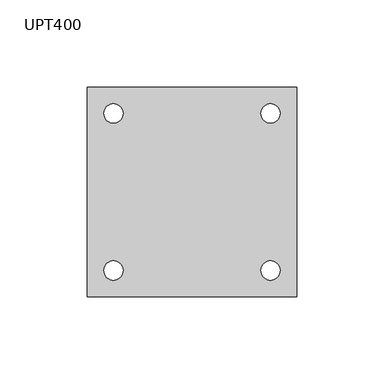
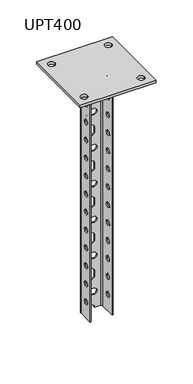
"""IFC4 building model written with IfcOpenShell, lengths in millimetres: proxy geometry, КМ Профиль_Универсальная потолочная стойка UPT : UPT400."""

from ifc_helpers import new_model, si_unit, point, frame, frame_2d, origin, place, context, project, spatial, polyline, circle_curve, trimmed, segment, composite_curve, outline, extrude, source, transform, mapped, element, save
from ifc_brep_helpers import plane_surface, cylinder_surface, revolved_surface, advanced_brep


def upt400_fccfb55f(model_context):
    return source(origin(), model_context, "Body", "SolidModel", [
        advanced_brep(
        [(18.0, -14.5, -4.0), (18.0, 11.0, -4.0), (14.5, 14.5, -4.0), (-14.5, 14.5, -4.0), (-18.0, 11.0, -4.0), (-18.0, -14.5, -4.0), (-16.5, -14.5, -4.0), (-16.5, 11.0, -4.0), (-14.5, 13.0, -4.0), (14.5, 13.0, -4.0), (16.5, 11.0, -4.0), (16.5, -14.5, -4.0), (18.0, 11.0, -404.0), (18.0, -14.5, -404.0), (16.5, -14.5, -404.0), (16.5, 11.0, -404.0), (14.5, 13.0, -404.0), (5.0, 13.0, -404.0), (5.0, 14.5, -404.0), (14.5, 14.5, -404.0), (-18.0, 11.0, -404.0), (-14.5, 14.5, -404.0), (-5.0, 14.5, -404.0), (-5.0, 13.0, -404.0), (-14.5, 13.0, -404.0), (-16.5, 11.0, -404.0), (-16.5, -14.5, -404.0), (-18.0, -14.5, -404.0), (18.0, -7.0, -47.0), (18.0, 1.0, -47.0), (18.0, -7.0, -77.0), (18.0, 1.0, -77.0), (18.0, -7.0, -107.0), (18.0, 1.0, -107.0), (18.0, -7.0, -137.0), (18.0, 1.0, -137.0), (18.0, -7.0, -167.0), (18.0, 1.0, -167.0), (18.0, -7.0, -197.0), (18.0, 1.0, -197.0), (18.0, -7.0, -227.0), (18.0, 1.0, -227.0), (18.0, -7.0, -17.0), (18.0, 1.0, -17.0), (18.0, -7.0, -257.0), (18.0, 1.0, -257.0), (18.0, -7.0, -287.0), (18.0, 1.0, -287.0), (18.0, -7.0, -317.0), (18.0, 1.0, -317.0), (18.0, -7.0, -347.0), (18.0, 1.0, -347.0), (18.0, -7.0, -377.0), (18.0, 1.0, -377.0), (5.0, 14.5, -403.5), (-5.0, 14.5, -403.5), (3.5, 14.5, -132.0), (-3.5, 14.5, -132.0), (-3.5, 14.5, -142.0), (3.5, 14.5, -142.0), (3.5, 14.5, -192.0), (-3.5, 14.5, -192.0), (-3.5, 14.5, -202.0), (3.5, 14.5, -202.0), (3.5, 14.5, -72.0), (-3.5, 14.5, -72.0), (-3.5, 14.5, -82.0), (3.5, 14.5, -82.0), (-5.0, 14.5, -103.5), (-5.0, 14.5, -110.5), (5.0, 14.5, -110.5), (5.0, 14.5, -103.5), (-5.0, 14.5, -163.5), (-5.0, 14.5, -170.5), (5.0, 14.5, -170.5), (5.0, 14.5, -163.5), (-5.0, 14.5, -223.5), (-5.0, 14.5, -230.5), (5.0, 14.5, -230.5), (5.0, 14.5, -223.5), (-5.0, 14.5, -43.5), (-5.0, 14.5, -50.5), (5.0, 14.5, -50.5), (5.0, 14.5, -43.5), (3.5, 14.5, -12.0), (-3.5, 14.5, -12.0), (-3.5, 14.5, -22.0), (3.5, 14.5, -22.0), (3.5, 14.5, -252.0), (-3.5, 14.5, -252.0), (-3.5, 14.5, -262.0), (3.5, 14.5, -262.0), (3.5, 14.5, -312.0), (-3.5, 14.5, -312.0), (-3.5, 14.5, -322.0), (3.5, 14.5, -322.0), (3.5, 14.5, -372.0), (-3.5, 14.5, -372.0), (-3.5, 14.5, -382.0), (3.5, 14.5, -382.0), (-5.0, 14.5, -283.5), (-5.0, 14.5, -290.5), (5.0, 14.5, -290.5), (5.0, 14.5, -283.5), (-5.0, 14.5, -343.5), (-5.0, 14.5, -350.5), (5.0, 14.5, -350.5), (5.0, 14.5, -343.5), (-18.0, -7.0, -17.0), (-18.0, 1.0, -17.0), (-18.0, -7.0, -47.0), (-18.0, 1.0, -47.0), (-18.0, -7.0, -77.0), (-18.0, 1.0, -77.0), (-18.0, -7.0, -107.0), (-18.0, 1.0, -107.0), (-18.0, -7.0, -137.0), (-18.0, 1.0, -137.0), (-18.0, -7.0, -167.0), (-18.0, 1.0, -167.0), (-18.0, -7.0, -197.0), (-18.0, 1.0, -197.0), (-18.0, -7.0, -227.0), (-18.0, 1.0, -227.0), (-18.0, -7.0, -257.0), (-18.0, 1.0, -257.0), (-18.0, -7.0, -287.0), (-18.0, 1.0, -287.0), (-18.0, -7.0, -317.0), (-18.0, 1.0, -317.0), (-18.0, -7.0, -347.0), (-18.0, 1.0, -347.0), (-18.0, -7.0, -377.0), (-18.0, 1.0, -377.0), (-16.5, 1.0, -17.0), (-16.5, -7.0, -17.0), (-16.5, 1.0, -47.0), (-16.5, -7.0, -47.0), (-16.5, 1.0, -77.0), (-16.5, -7.0, -77.0), (-16.5, 1.0, -107.0), (-16.5, -7.0, -107.0), (-16.5, 1.0, -137.0), (-16.5, -7.0, -137.0), (-16.5, 1.0, -167.0), (-16.5, -7.0, -167.0), (-16.5, 1.0, -197.0), (-16.5, -7.0, -197.0), (-16.5, 1.0, -227.0), (-16.5, -7.0, -227.0), (-16.5, 1.0, -257.0), (-16.5, -7.0, -257.0), (-16.5, 1.0, -287.0), (-16.5, -7.0, -287.0), (-16.5, 1.0, -317.0), (-16.5, -7.0, -317.0), (-16.5, 1.0, -347.0), (-16.5, -7.0, -347.0), (-16.5, 1.0, -377.0), (-16.5, -7.0, -377.0), (-5.0, 13.0, -403.5), (5.0, 13.0, -403.5), (-3.5, 13.0, -132.0), (3.5, 13.0, -132.0), (3.5, 13.0, -142.0), (-3.5, 13.0, -142.0), (-3.5, 13.0, -192.0), (3.5, 13.0, -192.0), (3.5, 13.0, -202.0), (-3.5, 13.0, -202.0), (-3.5, 13.0, -72.0), (3.5, 13.0, -72.0), (3.5, 13.0, -82.0), (-3.5, 13.0, -82.0), (-5.0, 13.0, -110.5), (-5.0, 13.0, -103.5), (5.0, 13.0, -103.5), (5.0, 13.0, -110.5), (-5.0, 13.0, -170.5), (-5.0, 13.0, -163.5), (5.0, 13.0, -163.5), (5.0, 13.0, -170.5), (-5.0, 13.0, -230.5), (-5.0, 13.0, -223.5), (5.0, 13.0, -223.5), (5.0, 13.0, -230.5), (-5.0, 13.0, -50.5), (-5.0, 13.0, -43.5), (5.0, 13.0, -43.5), (5.0, 13.0, -50.5), (-3.5, 13.0, -12.0), (3.5, 13.0, -12.0), (3.5, 13.0, -22.0), (-3.5, 13.0, -22.0), (-3.5, 13.0, -252.0), (3.5, 13.0, -252.0), (3.5, 13.0, -262.0), (-3.5, 13.0, -262.0), (-3.5, 13.0, -312.0), (3.5, 13.0, -312.0), (3.5, 13.0, -322.0), (-3.5, 13.0, -322.0), (-3.5, 13.0, -372.0), (3.5, 13.0, -372.0), (3.5, 13.0, -382.0), (-3.5, 13.0, -382.0), (-5.0, 13.0, -290.5), (-5.0, 13.0, -283.5), (5.0, 13.0, -283.5), (5.0, 13.0, -290.5), (-5.0, 13.0, -350.5), (-5.0, 13.0, -343.5), (5.0, 13.0, -343.5), (5.0, 13.0, -350.5), (16.5, 1.0, -47.0), (16.5, -7.0, -47.0), (16.5, 1.0, -77.0), (16.5, -7.0, -77.0), (16.5, 1.0, -107.0), (16.5, -7.0, -107.0), (16.5, 1.0, -137.0), (16.5, -7.0, -137.0), (16.5, 1.0, -167.0), (16.5, -7.0, -167.0), (16.5, 1.0, -197.0), (16.5, -7.0, -197.0), (16.5, 1.0, -227.0), (16.5, -7.0, -227.0), (16.5, 1.0, -17.0), (16.5, -7.0, -17.0), (16.5, 1.0, -257.0), (16.5, -7.0, -257.0), (16.5, 1.0, -287.0), (16.5, -7.0, -287.0), (16.5, 1.0, -317.0), (16.5, -7.0, -317.0), (16.5, 1.0, -347.0), (16.5, -7.0, -347.0), (16.5, 1.0, -377.0), (16.5, -7.0, -377.0)],
        [
            (0, 1),
            (1, 2, circle_curve(frame((14.5, 11.0, -4.0), z_axis=(0.0, 0.0, 1.0), x_axis=(1.0, 0.0, 0.0)), 3.5)),
            (2, 3),
            (3, 4, circle_curve(frame((-14.5, 11.0, -4.0), z_axis=(0.0, 0.0, 1.0), x_axis=(1.0, 0.0, 0.0)), 3.5)),
            (4, 5),
            (5, 6),
            (6, 7),
            (7, 8, circle_curve(frame((-14.5, 11.0, -4.0), z_axis=(0.0, 0.0, -1.0), x_axis=(1.0, 0.0, 0.0)), 2.0)),
            (8, 9),
            (9, 10, circle_curve(frame((14.5, 11.0, -4.0), z_axis=(0.0, 0.0, -1.0), x_axis=(1.0, 0.0, 0.0)), 2.0)),
            (10, 11),
            (11, 0),
            (12, 13),
            (13, 14),
            (14, 15),
            (15, 16, circle_curve(frame((14.5, 11.0, -404.0), z_axis=(0.0, 0.0, 1.0), x_axis=(1.0, 0.0, 0.0)), 2.0)),
            (16, 17),
            (17, 18),
            (18, 19),
            (19, 12, circle_curve(frame((14.5, 11.0, -404.0), z_axis=(0.0, 0.0, -1.0), x_axis=(1.0, 0.0, 0.0)), 3.5)),
            (20, 21, circle_curve(frame((-14.5, 11.0, -404.0), z_axis=(0.0, 0.0, -1.0), x_axis=(1.0, 0.0, 0.0)), 3.5)),
            (21, 22),
            (22, 23),
            (23, 24),
            (24, 25, circle_curve(frame((-14.5, 11.0, -404.0), z_axis=(0.0, 0.0, 1.0), x_axis=(1.0, 0.0, 0.0)), 2.0)),
            (25, 26),
            (26, 27),
            (27, 20),
            (0, 13),
            (12, 1),
            (28, 29, circle_curve(frame((18.0, -3.0, -47.0), z_axis=(-1.0, 0.0, 0.0), x_axis=(0.0, -1.0, 0.0)), 4.0)),
            (29, 28, circle_curve(frame((18.0, -3.0, -47.0), z_axis=(-1.0, 0.0, 0.0), x_axis=(0.0, -1.0, 0.0)), 4.0)),
            (30, 31, circle_curve(frame((18.0, -3.0, -77.0), z_axis=(-1.0, 0.0, 0.0), x_axis=(0.0, -1.0, 0.0)), 4.0)),
            (31, 30, circle_curve(frame((18.0, -3.0, -77.0), z_axis=(-1.0, 0.0, 0.0), x_axis=(0.0, -1.0, 0.0)), 4.0)),
            (32, 33, circle_curve(frame((18.0, -3.0, -107.0), z_axis=(-1.0, 0.0, 0.0), x_axis=(0.0, -1.0, 0.0)), 4.0)),
            (33, 32, circle_curve(frame((18.0, -3.0, -107.0), z_axis=(-1.0, 0.0, 0.0), x_axis=(0.0, -1.0, 0.0)), 4.0)),
            (34, 35, circle_curve(frame((18.0, -3.0, -137.0), z_axis=(-1.0, 0.0, 0.0), x_axis=(0.0, -1.0, 0.0)), 4.0)),
            (35, 34, circle_curve(frame((18.0, -3.0, -137.0), z_axis=(-1.0, 0.0, 0.0), x_axis=(0.0, -1.0, 0.0)), 4.0)),
            (36, 37, circle_curve(frame((18.0, -3.0, -167.0), z_axis=(-1.0, 0.0, 0.0), x_axis=(0.0, -1.0, 0.0)), 4.0)),
            (37, 36, circle_curve(frame((18.0, -3.0, -167.0), z_axis=(-1.0, 0.0, 0.0), x_axis=(0.0, -1.0, 0.0)), 4.0)),
            (38, 39, circle_curve(frame((18.0, -3.0, -197.0), z_axis=(-1.0, 0.0, 0.0), x_axis=(0.0, -1.0, 0.0)), 4.0)),
            (39, 38, circle_curve(frame((18.0, -3.0, -197.0), z_axis=(-1.0, 0.0, 0.0), x_axis=(0.0, -1.0, 0.0)), 4.0)),
            (40, 41, circle_curve(frame((18.0, -3.0, -227.0), z_axis=(-1.0, 0.0, 0.0), x_axis=(0.0, -1.0, 0.0)), 4.0)),
            (41, 40, circle_curve(frame((18.0, -3.0, -227.0), z_axis=(-1.0, 0.0, 0.0), x_axis=(0.0, -1.0, 0.0)), 4.0)),
            (42, 43, circle_curve(frame((18.0, -3.0, -17.0), z_axis=(-1.0, 0.0, 0.0), x_axis=(0.0, -1.0, 0.0)), 4.0)),
            (43, 42, circle_curve(frame((18.0, -3.0, -17.0), z_axis=(-1.0, 0.0, 0.0), x_axis=(0.0, -1.0, 0.0)), 4.0)),
            (44, 45, circle_curve(frame((18.0, -3.0, -257.0), z_axis=(-1.0, 0.0, 0.0), x_axis=(0.0, -1.0, 0.0)), 4.0)),
            (45, 44, circle_curve(frame((18.0, -3.0, -257.0), z_axis=(-1.0, 0.0, 0.0), x_axis=(0.0, -1.0, 0.0)), 4.0)),
            (46, 47, circle_curve(frame((18.0, -3.0, -287.0), z_axis=(-1.0, 0.0, 0.0), x_axis=(0.0, -1.0, 0.0)), 4.0)),
            (47, 46, circle_curve(frame((18.0, -3.0, -287.0), z_axis=(-1.0, 0.0, 0.0), x_axis=(0.0, -1.0, 0.0)), 4.0)),
            (48, 49, circle_curve(frame((18.0, -3.0, -317.0), z_axis=(-1.0, 0.0, 0.0), x_axis=(0.0, -1.0, 0.0)), 4.0)),
            (49, 48, circle_curve(frame((18.0, -3.0, -317.0), z_axis=(-1.0, 0.0, 0.0), x_axis=(0.0, -1.0, 0.0)), 4.0)),
            (50, 51, circle_curve(frame((18.0, -3.0, -347.0), z_axis=(-1.0, 0.0, 0.0), x_axis=(0.0, -1.0, 0.0)), 4.0)),
            (51, 50, circle_curve(frame((18.0, -3.0, -347.0), z_axis=(-1.0, 0.0, 0.0), x_axis=(0.0, -1.0, 0.0)), 4.0)),
            (52, 53, circle_curve(frame((18.0, -3.0, -377.0), z_axis=(-1.0, 0.0, 0.0), x_axis=(0.0, -1.0, 0.0)), 4.0)),
            (53, 52, circle_curve(frame((18.0, -3.0, -377.0), z_axis=(-1.0, 0.0, 0.0), x_axis=(0.0, -1.0, 0.0)), 4.0)),
            (19, 2),
            (18, 54),
            (54, 55, circle_curve(frame((0.0, 14.5, -403.5), z_axis=(0.0, -1.0, 0.0), x_axis=(0.0, 0.0, -1.0)), 5.0)),
            (55, 22),
            (21, 3),
            (56, 57),
            (57, 58, circle_curve(frame((-3.5, 14.5, -137.0), z_axis=(0.0, -1.0, 0.0), x_axis=(-1.0, 0.0, 0.0)), 5.0)),
            (58, 59),
            (59, 56, circle_curve(frame((3.5, 14.5, -137.0), z_axis=(0.0, -1.0, 0.0), x_axis=(-1.0, 0.0, 0.0)), 5.0)),
            (60, 61),
            (61, 62, circle_curve(frame((-3.5, 14.5, -197.0), z_axis=(0.0, -1.0, 0.0), x_axis=(-1.0, 0.0, 0.0)), 5.0)),
            (62, 63),
            (63, 60, circle_curve(frame((3.5, 14.5, -197.0), z_axis=(0.0, -1.0, 0.0), x_axis=(-1.0, 0.0, 0.0)), 5.0)),
            (64, 65),
            (65, 66, circle_curve(frame((-3.5, 14.5, -77.0), z_axis=(0.0, -1.0, 0.0), x_axis=(-1.0, 0.0, 0.0)), 5.0)),
            (66, 67),
            (67, 64, circle_curve(frame((3.5, 14.5, -77.0), z_axis=(0.0, -1.0, 0.0), x_axis=(-1.0, 0.0, 0.0)), 5.0)),
            (68, 69),
            (69, 70, circle_curve(frame((0.0, 14.5, -110.5), z_axis=(0.0, -1.0, 0.0), x_axis=(0.0, 0.0, -1.0)), 5.0)),
            (70, 71),
            (71, 68, circle_curve(frame((0.0, 14.5, -103.5), z_axis=(0.0, -1.0, 0.0), x_axis=(0.0, 0.0, -1.0)), 5.0)),
            (72, 73),
            (73, 74, circle_curve(frame((0.0, 14.5, -170.5), z_axis=(0.0, -1.0, 0.0), x_axis=(0.0, 0.0, -1.0)), 5.0)),
            (74, 75),
            (75, 72, circle_curve(frame((0.0, 14.5, -163.5), z_axis=(0.0, -1.0, 0.0), x_axis=(0.0, 0.0, -1.0)), 5.0)),
            (76, 77),
            (77, 78, circle_curve(frame((0.0, 14.5, -230.5), z_axis=(0.0, -1.0, 0.0), x_axis=(0.0, 0.0, -1.0)), 5.0)),
            (78, 79),
            (79, 76, circle_curve(frame((0.0, 14.5, -223.5), z_axis=(0.0, -1.0, 0.0), x_axis=(0.0, 0.0, -1.0)), 5.0)),
            (80, 81),
            (81, 82, circle_curve(frame((0.0, 14.5, -50.5), z_axis=(0.0, -1.0, 0.0), x_axis=(0.0, 0.0, -1.0)), 5.0)),
            (82, 83),
            (83, 80, circle_curve(frame((0.0, 14.5, -43.5), z_axis=(0.0, -1.0, 0.0), x_axis=(0.0, 0.0, -1.0)), 5.0)),
            (84, 85),
            (85, 86, circle_curve(frame((-3.5, 14.5, -17.0), z_axis=(0.0, -1.0, 0.0), x_axis=(-1.0, 0.0, 0.0)), 5.0)),
            (86, 87),
            (87, 84, circle_curve(frame((3.5, 14.5, -17.0), z_axis=(0.0, -1.0, 0.0), x_axis=(-1.0, 0.0, 0.0)), 5.0)),
            (88, 89),
            (89, 90, circle_curve(frame((-3.5, 14.5, -257.0), z_axis=(0.0, -1.0, 0.0), x_axis=(-1.0, 0.0, 0.0)), 5.0)),
            (90, 91),
            (91, 88, circle_curve(frame((3.5, 14.5, -257.0), z_axis=(0.0, -1.0, 0.0), x_axis=(-1.0, 0.0, 0.0)), 5.0)),
            (92, 93),
            (93, 94, circle_curve(frame((-3.5, 14.5, -317.0), z_axis=(0.0, -1.0, 0.0), x_axis=(-1.0, 0.0, 0.0)), 5.0)),
            (94, 95),
            (95, 92, circle_curve(frame((3.5, 14.5, -317.0), z_axis=(0.0, -1.0, 0.0), x_axis=(-1.0, 0.0, 0.0)), 5.0)),
            (96, 97),
            (97, 98, circle_curve(frame((-3.5, 14.5, -377.0), z_axis=(0.0, -1.0, 0.0), x_axis=(-1.0, 0.0, 0.0)), 5.0)),
            (98, 99),
            (99, 96, circle_curve(frame((3.5, 14.5, -377.0), z_axis=(0.0, -1.0, 0.0), x_axis=(-1.0, 0.0, 0.0)), 5.0)),
            (100, 101),
            (101, 102, circle_curve(frame((0.0, 14.5, -290.5), z_axis=(0.0, -1.0, 0.0), x_axis=(0.0, 0.0, -1.0)), 5.0)),
            (102, 103),
            (103, 100, circle_curve(frame((0.0, 14.5, -283.5), z_axis=(0.0, -1.0, 0.0), x_axis=(0.0, 0.0, -1.0)), 5.0)),
            (104, 105),
            (105, 106, circle_curve(frame((0.0, 14.5, -350.5), z_axis=(0.0, -1.0, 0.0), x_axis=(0.0, 0.0, -1.0)), 5.0)),
            (106, 107),
            (107, 104, circle_curve(frame((0.0, 14.5, -343.5), z_axis=(0.0, -1.0, 0.0), x_axis=(0.0, 0.0, -1.0)), 5.0)),
            (20, 4),
            (27, 5),
            (108, 109, circle_curve(frame((-18.0, -3.0, -17.0), z_axis=(1.0, 0.0, 0.0), x_axis=(0.0, -1.0, 0.0)), 4.0)),
            (109, 108, circle_curve(frame((-18.0, -3.0, -17.0), z_axis=(1.0, 0.0, 0.0), x_axis=(0.0, -1.0, 0.0)), 4.0)),
            (110, 111, circle_curve(frame((-18.0, -3.0, -47.0), z_axis=(1.0, 0.0, 0.0), x_axis=(0.0, -1.0, 0.0)), 4.0)),
            (111, 110, circle_curve(frame((-18.0, -3.0, -47.0), z_axis=(1.0, 0.0, 0.0), x_axis=(0.0, -1.0, 0.0)), 4.0)),
            (112, 113, circle_curve(frame((-18.0, -3.0, -77.0), z_axis=(1.0, 0.0, 0.0), x_axis=(0.0, -1.0, 0.0)), 4.0)),
            (113, 112, circle_curve(frame((-18.0, -3.0, -77.0), z_axis=(1.0, 0.0, 0.0), x_axis=(0.0, -1.0, 0.0)), 4.0)),
            (114, 115, circle_curve(frame((-18.0, -3.0, -107.0), z_axis=(1.0, 0.0, 0.0), x_axis=(0.0, -1.0, 0.0)), 4.0)),
            (115, 114, circle_curve(frame((-18.0, -3.0, -107.0), z_axis=(1.0, 0.0, 0.0), x_axis=(0.0, -1.0, 0.0)), 4.0)),
            (116, 117, circle_curve(frame((-18.0, -3.0, -137.0), z_axis=(1.0, 0.0, 0.0), x_axis=(0.0, -1.0, 0.0)), 4.0)),
            (117, 116, circle_curve(frame((-18.0, -3.0, -137.0), z_axis=(1.0, 0.0, 0.0), x_axis=(0.0, -1.0, 0.0)), 4.0)),
            (118, 119, circle_curve(frame((-18.0, -3.0, -167.0), z_axis=(1.0, 0.0, 0.0), x_axis=(0.0, -1.0, 0.0)), 4.0)),
            (119, 118, circle_curve(frame((-18.0, -3.0, -167.0), z_axis=(1.0, 0.0, 0.0), x_axis=(0.0, -1.0, 0.0)), 4.0)),
            (120, 121, circle_curve(frame((-18.0, -3.0, -197.0), z_axis=(1.0, 0.0, 0.0), x_axis=(0.0, -1.0, 0.0)), 4.0)),
            (121, 120, circle_curve(frame((-18.0, -3.0, -197.0), z_axis=(1.0, 0.0, 0.0), x_axis=(0.0, -1.0, 0.0)), 4.0)),
            (122, 123, circle_curve(frame((-18.0, -3.0, -227.0), z_axis=(1.0, 0.0, 0.0), x_axis=(0.0, -1.0, 0.0)), 4.0)),
            (123, 122, circle_curve(frame((-18.0, -3.0, -227.0), z_axis=(1.0, 0.0, 0.0), x_axis=(0.0, -1.0, 0.0)), 4.0)),
            (124, 125, circle_curve(frame((-18.0, -3.0, -257.0), z_axis=(1.0, 0.0, 0.0), x_axis=(0.0, -1.0, 0.0)), 4.0)),
            (125, 124, circle_curve(frame((-18.0, -3.0, -257.0), z_axis=(1.0, 0.0, 0.0), x_axis=(0.0, -1.0, 0.0)), 4.0)),
            (126, 127, circle_curve(frame((-18.0, -3.0, -287.0), z_axis=(1.0, 0.0, 0.0), x_axis=(0.0, -1.0, 0.0)), 4.0)),
            (127, 126, circle_curve(frame((-18.0, -3.0, -287.0), z_axis=(1.0, 0.0, 0.0), x_axis=(0.0, -1.0, 0.0)), 4.0)),
            (128, 129, circle_curve(frame((-18.0, -3.0, -317.0), z_axis=(1.0, 0.0, 0.0), x_axis=(0.0, -1.0, 0.0)), 4.0)),
            (129, 128, circle_curve(frame((-18.0, -3.0, -317.0), z_axis=(1.0, 0.0, 0.0), x_axis=(0.0, -1.0, 0.0)), 4.0)),
            (130, 131, circle_curve(frame((-18.0, -3.0, -347.0), z_axis=(1.0, 0.0, 0.0), x_axis=(0.0, -1.0, 0.0)), 4.0)),
            (131, 130, circle_curve(frame((-18.0, -3.0, -347.0), z_axis=(1.0, 0.0, 0.0), x_axis=(0.0, -1.0, 0.0)), 4.0)),
            (132, 133, circle_curve(frame((-18.0, -3.0, -377.0), z_axis=(1.0, 0.0, 0.0), x_axis=(0.0, -1.0, 0.0)), 4.0)),
            (133, 132, circle_curve(frame((-18.0, -3.0, -377.0), z_axis=(1.0, 0.0, 0.0), x_axis=(0.0, -1.0, 0.0)), 4.0)),
            (26, 6),
            (25, 7),
            (134, 135, circle_curve(frame((-16.5, -3.0, -17.0), z_axis=(-1.0, 0.0, 0.0), x_axis=(0.0, -1.0, 0.0)), 4.0)),
            (135, 134, circle_curve(frame((-16.5, -3.0, -17.0), z_axis=(-1.0, 0.0, 0.0), x_axis=(0.0, -1.0, 0.0)), 4.0)),
            (136, 137, circle_curve(frame((-16.5, -3.0, -47.0), z_axis=(-1.0, 0.0, 0.0), x_axis=(0.0, -1.0, 0.0)), 4.0)),
            (137, 136, circle_curve(frame((-16.5, -3.0, -47.0), z_axis=(-1.0, 0.0, 0.0), x_axis=(0.0, -1.0, 0.0)), 4.0)),
            (138, 139, circle_curve(frame((-16.5, -3.0, -77.0), z_axis=(-1.0, 0.0, 0.0), x_axis=(0.0, -1.0, 0.0)), 4.0)),
            (139, 138, circle_curve(frame((-16.5, -3.0, -77.0), z_axis=(-1.0, 0.0, 0.0), x_axis=(0.0, -1.0, 0.0)), 4.0)),
            (140, 141, circle_curve(frame((-16.5, -3.0, -107.0), z_axis=(-1.0, 0.0, 0.0), x_axis=(0.0, -1.0, 0.0)), 4.0)),
            (141, 140, circle_curve(frame((-16.5, -3.0, -107.0), z_axis=(-1.0, 0.0, 0.0), x_axis=(0.0, -1.0, 0.0)), 4.0)),
            (142, 143, circle_curve(frame((-16.5, -3.0, -137.0), z_axis=(-1.0, 0.0, 0.0), x_axis=(0.0, -1.0, 0.0)), 4.0)),
            (143, 142, circle_curve(frame((-16.5, -3.0, -137.0), z_axis=(-1.0, 0.0, 0.0), x_axis=(0.0, -1.0, 0.0)), 4.0)),
            (144, 145, circle_curve(frame((-16.5, -3.0, -167.0), z_axis=(-1.0, 0.0, 0.0), x_axis=(0.0, -1.0, 0.0)), 4.0)),
            (145, 144, circle_curve(frame((-16.5, -3.0, -167.0), z_axis=(-1.0, 0.0, 0.0), x_axis=(0.0, -1.0, 0.0)), 4.0)),
            (146, 147, circle_curve(frame((-16.5, -3.0, -197.0), z_axis=(-1.0, 0.0, 0.0), x_axis=(0.0, -1.0, 0.0)), 4.0)),
            (147, 146, circle_curve(frame((-16.5, -3.0, -197.0), z_axis=(-1.0, 0.0, 0.0), x_axis=(0.0, -1.0, 0.0)), 4.0)),
            (148, 149, circle_curve(frame((-16.5, -3.0, -227.0), z_axis=(-1.0, 0.0, 0.0), x_axis=(0.0, -1.0, 0.0)), 4.0)),
            (149, 148, circle_curve(frame((-16.5, -3.0, -227.0), z_axis=(-1.0, 0.0, 0.0), x_axis=(0.0, -1.0, 0.0)), 4.0)),
            (150, 151, circle_curve(frame((-16.5, -3.0, -257.0), z_axis=(-1.0, 0.0, 0.0), x_axis=(0.0, -1.0, 0.0)), 4.0)),
            (151, 150, circle_curve(frame((-16.5, -3.0, -257.0), z_axis=(-1.0, 0.0, 0.0), x_axis=(0.0, -1.0, 0.0)), 4.0)),
            (152, 153, circle_curve(frame((-16.5, -3.0, -287.0), z_axis=(-1.0, 0.0, 0.0), x_axis=(0.0, -1.0, 0.0)), 4.0)),
            (153, 152, circle_curve(frame((-16.5, -3.0, -287.0), z_axis=(-1.0, 0.0, 0.0), x_axis=(0.0, -1.0, 0.0)), 4.0)),
            (154, 155, circle_curve(frame((-16.5, -3.0, -317.0), z_axis=(-1.0, 0.0, 0.0), x_axis=(0.0, -1.0, 0.0)), 4.0)),
            (155, 154, circle_curve(frame((-16.5, -3.0, -317.0), z_axis=(-1.0, 0.0, 0.0), x_axis=(0.0, -1.0, 0.0)), 4.0)),
            (156, 157, circle_curve(frame((-16.5, -3.0, -347.0), z_axis=(-1.0, 0.0, 0.0), x_axis=(0.0, -1.0, 0.0)), 4.0)),
            (157, 156, circle_curve(frame((-16.5, -3.0, -347.0), z_axis=(-1.0, 0.0, 0.0), x_axis=(0.0, -1.0, 0.0)), 4.0)),
            (158, 159, circle_curve(frame((-16.5, -3.0, -377.0), z_axis=(-1.0, 0.0, 0.0), x_axis=(0.0, -1.0, 0.0)), 4.0)),
            (159, 158, circle_curve(frame((-16.5, -3.0, -377.0), z_axis=(-1.0, 0.0, 0.0), x_axis=(0.0, -1.0, 0.0)), 4.0)),
            (24, 8),
            (23, 160),
            (160, 161, circle_curve(frame((0.0, 13.0, -403.5), z_axis=(0.0, 1.0, 0.0), x_axis=(0.0, 0.0, -1.0)), 5.0)),
            (161, 17),
            (16, 9),
            (162, 163),
            (163, 164, circle_curve(frame((3.5, 13.0, -137.0), z_axis=(0.0, 1.0, 0.0), x_axis=(-1.0, 0.0, 0.0)), 5.0)),
            (164, 165),
            (165, 162, circle_curve(frame((-3.5, 13.0, -137.0), z_axis=(0.0, 1.0, 0.0), x_axis=(-1.0, 0.0, 0.0)), 5.0)),
            (166, 167),
            (167, 168, circle_curve(frame((3.5, 13.0, -197.0), z_axis=(0.0, 1.0, 0.0), x_axis=(-1.0, 0.0, 0.0)), 5.0)),
            (168, 169),
            (169, 166, circle_curve(frame((-3.5, 13.0, -197.0), z_axis=(0.0, 1.0, 0.0), x_axis=(-1.0, 0.0, 0.0)), 5.0)),
            (170, 171),
            (171, 172, circle_curve(frame((3.5, 13.0, -77.0), z_axis=(0.0, 1.0, 0.0), x_axis=(-1.0, 0.0, 0.0)), 5.0)),
            (172, 173),
            (173, 170, circle_curve(frame((-3.5, 13.0, -77.0), z_axis=(0.0, 1.0, 0.0), x_axis=(-1.0, 0.0, 0.0)), 5.0)),
            (174, 175),
            (175, 176, circle_curve(frame((0.0, 13.0, -103.5), z_axis=(0.0, 1.0, 0.0), x_axis=(0.0, 0.0, -1.0)), 5.0)),
            (176, 177),
            (177, 174, circle_curve(frame((0.0, 13.0, -110.5), z_axis=(0.0, 1.0, 0.0), x_axis=(0.0, 0.0, -1.0)), 5.0)),
            (178, 179),
            (179, 180, circle_curve(frame((0.0, 13.0, -163.5), z_axis=(0.0, 1.0, 0.0), x_axis=(0.0, 0.0, -1.0)), 5.0)),
            (180, 181),
            (181, 178, circle_curve(frame((0.0, 13.0, -170.5), z_axis=(0.0, 1.0, 0.0), x_axis=(0.0, 0.0, -1.0)), 5.0)),
            (182, 183),
            (183, 184, circle_curve(frame((0.0, 13.0, -223.5), z_axis=(0.0, 1.0, 0.0), x_axis=(0.0, 0.0, -1.0)), 5.0)),
            (184, 185),
            (185, 182, circle_curve(frame((0.0, 13.0, -230.5), z_axis=(0.0, 1.0, 0.0), x_axis=(0.0, 0.0, -1.0)), 5.0)),
            (186, 187),
            (187, 188, circle_curve(frame((0.0, 13.0, -43.5), z_axis=(0.0, 1.0, 0.0), x_axis=(0.0, 0.0, -1.0)), 5.0)),
            (188, 189),
            (189, 186, circle_curve(frame((0.0, 13.0, -50.5), z_axis=(0.0, 1.0, 0.0), x_axis=(0.0, 0.0, -1.0)), 5.0)),
            (190, 191),
            (191, 192, circle_curve(frame((3.5, 13.0, -17.0), z_axis=(0.0, 1.0, 0.0), x_axis=(-1.0, 0.0, 0.0)), 5.0)),
            (192, 193),
            (193, 190, circle_curve(frame((-3.5, 13.0, -17.0), z_axis=(0.0, 1.0, 0.0), x_axis=(-1.0, 0.0, 0.0)), 5.0)),
            (194, 195),
            (195, 196, circle_curve(frame((3.5, 13.0, -257.0), z_axis=(0.0, 1.0, 0.0), x_axis=(-1.0, 0.0, 0.0)), 5.0)),
            (196, 197),
            (197, 194, circle_curve(frame((-3.5, 13.0, -257.0), z_axis=(0.0, 1.0, 0.0), x_axis=(-1.0, 0.0, 0.0)), 5.0)),
            (198, 199),
            (199, 200, circle_curve(frame((3.5, 13.0, -317.0), z_axis=(0.0, 1.0, 0.0), x_axis=(-1.0, 0.0, 0.0)), 5.0)),
            (200, 201),
            (201, 198, circle_curve(frame((-3.5, 13.0, -317.0), z_axis=(0.0, 1.0, 0.0), x_axis=(-1.0, 0.0, 0.0)), 5.0)),
            (202, 203),
            (203, 204, circle_curve(frame((3.5, 13.0, -377.0), z_axis=(0.0, 1.0, 0.0), x_axis=(-1.0, 0.0, 0.0)), 5.0)),
            (204, 205),
            (205, 202, circle_curve(frame((-3.5, 13.0, -377.0), z_axis=(0.0, 1.0, 0.0), x_axis=(-1.0, 0.0, 0.0)), 5.0)),
            (206, 207),
            (207, 208, circle_curve(frame((0.0, 13.0, -283.5), z_axis=(0.0, 1.0, 0.0), x_axis=(0.0, 0.0, -1.0)), 5.0)),
            (208, 209),
            (209, 206, circle_curve(frame((0.0, 13.0, -290.5), z_axis=(0.0, 1.0, 0.0), x_axis=(0.0, 0.0, -1.0)), 5.0)),
            (210, 211),
            (211, 212, circle_curve(frame((0.0, 13.0, -343.5), z_axis=(0.0, 1.0, 0.0), x_axis=(0.0, 0.0, -1.0)), 5.0)),
            (212, 213),
            (213, 210, circle_curve(frame((0.0, 13.0, -350.5), z_axis=(0.0, 1.0, 0.0), x_axis=(0.0, 0.0, -1.0)), 5.0)),
            (15, 10),
            (14, 11),
            (214, 215, circle_curve(frame((16.5, -3.0, -47.0), z_axis=(1.0, 0.0, 0.0), x_axis=(0.0, -1.0, 0.0)), 4.0)),
            (215, 214, circle_curve(frame((16.5, -3.0, -47.0), z_axis=(1.0, 0.0, 0.0), x_axis=(0.0, -1.0, 0.0)), 4.0)),
            (216, 217, circle_curve(frame((16.5, -3.0, -77.0), z_axis=(1.0, 0.0, 0.0), x_axis=(0.0, -1.0, 0.0)), 4.0)),
            (217, 216, circle_curve(frame((16.5, -3.0, -77.0), z_axis=(1.0, 0.0, 0.0), x_axis=(0.0, -1.0, 0.0)), 4.0)),
            (218, 219, circle_curve(frame((16.5, -3.0, -107.0), z_axis=(1.0, 0.0, 0.0), x_axis=(0.0, -1.0, 0.0)), 4.0)),
            (219, 218, circle_curve(frame((16.5, -3.0, -107.0), z_axis=(1.0, 0.0, 0.0), x_axis=(0.0, -1.0, 0.0)), 4.0)),
            (220, 221, circle_curve(frame((16.5, -3.0, -137.0), z_axis=(1.0, 0.0, 0.0), x_axis=(0.0, -1.0, 0.0)), 4.0)),
            (221, 220, circle_curve(frame((16.5, -3.0, -137.0), z_axis=(1.0, 0.0, 0.0), x_axis=(0.0, -1.0, 0.0)), 4.0)),
            (222, 223, circle_curve(frame((16.5, -3.0, -167.0), z_axis=(1.0, 0.0, 0.0), x_axis=(0.0, -1.0, 0.0)), 4.0)),
            (223, 222, circle_curve(frame((16.5, -3.0, -167.0), z_axis=(1.0, 0.0, 0.0), x_axis=(0.0, -1.0, 0.0)), 4.0)),
            (224, 225, circle_curve(frame((16.5, -3.0, -197.0), z_axis=(1.0, 0.0, 0.0), x_axis=(0.0, -1.0, 0.0)), 4.0)),
            (225, 224, circle_curve(frame((16.5, -3.0, -197.0), z_axis=(1.0, 0.0, 0.0), x_axis=(0.0, -1.0, 0.0)), 4.0)),
            (226, 227, circle_curve(frame((16.5, -3.0, -227.0), z_axis=(1.0, 0.0, 0.0), x_axis=(0.0, -1.0, 0.0)), 4.0)),
            (227, 226, circle_curve(frame((16.5, -3.0, -227.0), z_axis=(1.0, 0.0, 0.0), x_axis=(0.0, -1.0, 0.0)), 4.0)),
            (228, 229, circle_curve(frame((16.5, -3.0, -17.0), z_axis=(1.0, 0.0, 0.0), x_axis=(0.0, -1.0, 0.0)), 4.0)),
            (229, 228, circle_curve(frame((16.5, -3.0, -17.0), z_axis=(1.0, 0.0, 0.0), x_axis=(0.0, -1.0, 0.0)), 4.0)),
            (230, 231, circle_curve(frame((16.5, -3.0, -257.0), z_axis=(1.0, 0.0, 0.0), x_axis=(0.0, -1.0, 0.0)), 4.0)),
            (231, 230, circle_curve(frame((16.5, -3.0, -257.0), z_axis=(1.0, 0.0, 0.0), x_axis=(0.0, -1.0, 0.0)), 4.0)),
            (232, 233, circle_curve(frame((16.5, -3.0, -287.0), z_axis=(1.0, 0.0, 0.0), x_axis=(0.0, -1.0, 0.0)), 4.0)),
            (233, 232, circle_curve(frame((16.5, -3.0, -287.0), z_axis=(1.0, 0.0, 0.0), x_axis=(0.0, -1.0, 0.0)), 4.0)),
            (234, 235, circle_curve(frame((16.5, -3.0, -317.0), z_axis=(1.0, 0.0, 0.0), x_axis=(0.0, -1.0, 0.0)), 4.0)),
            (235, 234, circle_curve(frame((16.5, -3.0, -317.0), z_axis=(1.0, 0.0, 0.0), x_axis=(0.0, -1.0, 0.0)), 4.0)),
            (236, 237, circle_curve(frame((16.5, -3.0, -347.0), z_axis=(1.0, 0.0, 0.0), x_axis=(0.0, -1.0, 0.0)), 4.0)),
            (237, 236, circle_curve(frame((16.5, -3.0, -347.0), z_axis=(1.0, 0.0, 0.0), x_axis=(0.0, -1.0, 0.0)), 4.0)),
            (238, 239, circle_curve(frame((16.5, -3.0, -377.0), z_axis=(1.0, 0.0, 0.0), x_axis=(0.0, -1.0, 0.0)), 4.0)),
            (239, 238, circle_curve(frame((16.5, -3.0, -377.0), z_axis=(1.0, 0.0, 0.0), x_axis=(0.0, -1.0, 0.0)), 4.0)),
            (56, 163),
            (162, 57),
            (59, 164),
            (58, 165),
            (60, 167),
            (166, 61),
            (63, 168),
            (62, 169),
            (64, 171),
            (170, 65),
            (67, 172),
            (66, 173),
            (68, 175),
            (174, 69),
            (71, 176),
            (70, 177),
            (72, 179),
            (178, 73),
            (75, 180),
            (74, 181),
            (76, 183),
            (182, 77),
            (79, 184),
            (78, 185),
            (108, 135),
            (134, 109),
            (28, 215),
            (214, 29),
            (110, 137),
            (136, 111),
            (30, 217),
            (216, 31),
            (112, 139),
            (138, 113),
            (32, 219),
            (218, 33),
            (114, 141),
            (140, 115),
            (34, 221),
            (220, 35),
            (116, 143),
            (142, 117),
            (36, 223),
            (222, 37),
            (118, 145),
            (144, 119),
            (38, 225),
            (224, 39),
            (120, 147),
            (146, 121),
            (40, 227),
            (226, 41),
            (122, 149),
            (148, 123),
            (42, 229),
            (228, 43),
            (80, 187),
            (186, 81),
            (83, 188),
            (82, 189),
            (84, 191),
            (190, 85),
            (87, 192),
            (86, 193),
            (88, 195),
            (194, 89),
            (91, 196),
            (90, 197),
            (92, 199),
            (198, 93),
            (95, 200),
            (94, 201),
            (96, 203),
            (202, 97),
            (99, 204),
            (98, 205),
            (100, 207),
            (206, 101),
            (103, 208),
            (102, 209),
            (104, 211),
            (210, 105),
            (107, 212),
            (106, 213),
            (55, 160),
            (54, 161),
            (44, 231),
            (230, 45),
            (124, 151),
            (150, 125),
            (46, 233),
            (232, 47),
            (126, 153),
            (152, 127),
            (48, 235),
            (234, 49),
            (128, 155),
            (154, 129),
            (50, 237),
            (236, 51),
            (130, 157),
            (156, 131),
            (52, 239),
            (238, 53),
            (132, 159),
            (158, 133),
        ],
        [
            plane_surface(frame((18.0, 11.0, -4.0), z_axis=(0.0, 0.0, 1.0), x_axis=(0.0, 1.0, 0.0))),
            plane_surface(frame((18.0, 11.0, -404.0), z_axis=(0.0, 0.0, -1.0), x_axis=(0.0, -1.0, 0.0))),
            plane_surface(frame((18.0, -14.5, -4.0), z_axis=(1.0, 0.0, 0.0), x_axis=(0.0, 0.0, -1.0))),
            cylinder_surface(frame((14.5, 11.0, -404.0), z_axis=(0.0, 0.0, 1.0), x_axis=(1.0, 0.0, 0.0)), 3.5),
            plane_surface(frame((14.5, 14.5, -4.0), z_axis=(0.0, 1.0, 0.0), x_axis=(0.0, 0.0, -1.0))),
            cylinder_surface(frame((-14.5, 11.0, -404.0), z_axis=(0.0, 0.0, 1.0), x_axis=(1.0, 0.0, 0.0)), 3.5),
            plane_surface(frame((-18.0, 11.0, -4.0), z_axis=(-1.0, 0.0, 0.0), x_axis=(0.0, 0.0, -1.0))),
            plane_surface(frame((-18.0, -14.5, -4.0), z_axis=(0.0, -1.0, 0.0), x_axis=(0.0, 0.0, -1.0))),
            plane_surface(frame((-16.5, -14.5, -4.0), z_axis=(1.0, 0.0, 0.0), x_axis=(0.0, 0.0, -1.0))),
            revolved_surface(polyline([(-12.5, 11.0, -404.0), (-12.5, 11.0, -4.0)]), (-14.5, 11.0, -404.0), (0.0, 0.0, -1.0)),
            plane_surface(frame((-14.5, 13.0, -4.0), z_axis=(0.0, -1.0, 0.0), x_axis=(0.0, 0.0, -1.0))),
            revolved_surface(polyline([(16.5, 11.0, -404.0), (16.5, 11.0, -4.0)]), (14.5, 11.0, -404.0), (0.0, 0.0, -1.0)),
            plane_surface(frame((16.5, 11.0, -4.0), z_axis=(-1.0, 0.0, 0.0), x_axis=(0.0, 0.0, -1.0))),
            plane_surface(frame((16.5, -14.5, -4.0), z_axis=(0.0, -1.0, 0.0), x_axis=(0.0, 0.0, -1.0))),
            plane_surface(frame((-3.5, 14.5, -132.0), z_axis=(0.0, 0.0, -1.0), x_axis=(0.0, -1.0, 0.0))),
            revolved_surface(polyline([(-1.5, 14.5, -137.0), (-1.5, 13.0, -137.0)]), (3.5, 13.0, -137.0), (0.0, 1.0, 0.0)),
            plane_surface(frame((3.5, 14.5, -142.0), z_axis=(0.0, 0.0, 1.0), x_axis=(0.0, -1.0, 0.0))),
            revolved_surface(polyline([(-8.5, 14.5, -137.0), (-8.5, 13.0, -137.0)]), (-3.5, 13.0, -137.0), (0.0, 1.0, 0.0)),
            plane_surface(frame((-3.5, 14.5, -192.0), z_axis=(0.0, 0.0, -1.0), x_axis=(0.0, -1.0, 0.0))),
            revolved_surface(polyline([(-1.5, 14.5, -197.0), (-1.5, 13.0, -197.0)]), (3.5, 13.0, -197.0), (0.0, 1.0, 0.0)),
            plane_surface(frame((3.5, 14.5, -202.0), z_axis=(0.0, 0.0, 1.0), x_axis=(0.0, -1.0, 0.0))),
            revolved_surface(polyline([(-8.5, 14.5, -197.0), (-8.5, 13.0, -197.0)]), (-3.5, 13.0, -197.0), (0.0, 1.0, 0.0)),
            plane_surface(frame((-3.5, 14.5, -72.0), z_axis=(0.0, 0.0, -1.0), x_axis=(0.0, -1.0, 0.0))),
            revolved_surface(polyline([(-1.5, 14.5, -77.0), (-1.5, 13.0, -77.0)]), (3.5, 13.0, -77.0), (0.0, 1.0, 0.0)),
            plane_surface(frame((3.5, 14.5, -82.0), z_axis=(0.0, 0.0, 1.0), x_axis=(0.0, -1.0, 0.0))),
            revolved_surface(polyline([(-8.5, 14.5, -77.0), (-8.5, 13.0, -77.0)]), (-3.5, 13.0, -77.0), (0.0, 1.0, 0.0)),
            plane_surface(frame((-5.0, 14.5, -110.5), z_axis=(1.0, 0.0, 0.0), x_axis=(0.0, -1.0, 0.0))),
            revolved_surface(polyline([(0.0, 14.5, -108.5), (0.0, 13.0, -108.5)]), (0.0, 13.0, -103.5), (0.0, 1.0, 0.0)),
            plane_surface(frame((5.0, 14.5, -103.5), z_axis=(-1.0, 0.0, 0.0), x_axis=(0.0, -1.0, 0.0))),
            revolved_surface(polyline([(0.0, 14.5, -115.5), (0.0, 13.0, -115.5)]), (0.0, 13.0, -110.5), (0.0, 1.0, 0.0)),
            plane_surface(frame((-5.0, 14.5, -170.5), z_axis=(1.0, 0.0, 0.0), x_axis=(0.0, -1.0, 0.0))),
            revolved_surface(polyline([(0.0, 14.5, -168.5), (0.0, 13.0, -168.5)]), (0.0, 13.0, -163.5), (0.0, 1.0, 0.0)),
            plane_surface(frame((5.0, 14.5, -163.5), z_axis=(-1.0, 0.0, 0.0), x_axis=(0.0, -1.0, 0.0))),
            revolved_surface(polyline([(0.0, 14.5, -175.5), (0.0, 13.0, -175.5)]), (0.0, 13.0, -170.5), (0.0, 1.0, 0.0)),
            plane_surface(frame((-5.0, 14.5, -230.5), z_axis=(1.0, 0.0, 0.0), x_axis=(0.0, -1.0, 0.0))),
            revolved_surface(polyline([(0.0, 14.5, -228.5), (0.0, 13.0, -228.5)]), (0.0, 13.0, -223.5), (0.0, 1.0, 0.0)),
            plane_surface(frame((5.0, 14.5, -223.5), z_axis=(-1.0, 0.0, 0.0), x_axis=(0.0, -1.0, 0.0))),
            revolved_surface(polyline([(0.0, 14.5, -235.5), (0.0, 13.0, -235.5)]), (0.0, 13.0, -230.5), (0.0, 1.0, 0.0)),
            revolved_surface(polyline([(-18.0, -7.0, -17.0), (-16.5, -7.0, -17.0)]), (-16.5, -3.0, -17.0), (-1.0, 0.0, 0.0)),
            revolved_surface(polyline([(18.0, -7.0, -47.0), (16.5, -7.0, -47.0)]), (16.5, -3.0, -47.0), (1.0, 0.0, 0.0)),
            revolved_surface(polyline([(-18.0, -7.0, -47.0), (-16.5, -7.0, -47.0)]), (-16.5, -3.0, -47.0), (-1.0, 0.0, 0.0)),
            revolved_surface(polyline([(18.0, -7.0, -77.0), (16.5, -7.0, -77.0)]), (16.5, -3.0, -77.0), (1.0, 0.0, 0.0)),
            revolved_surface(polyline([(-18.0, -7.0, -77.0), (-16.5, -7.0, -77.0)]), (-16.5, -3.0, -77.0), (-1.0, 0.0, 0.0)),
            revolved_surface(polyline([(18.0, -7.0, -107.0), (16.5, -7.0, -107.0)]), (16.5, -3.0, -107.0), (1.0, 0.0, 0.0)),
            revolved_surface(polyline([(-18.0, -7.0, -107.0), (-16.5, -7.0, -107.0)]), (-16.5, -3.0, -107.0), (-1.0, 0.0, 0.0)),
            revolved_surface(polyline([(18.0, -7.0, -137.0), (16.5, -7.0, -137.0)]), (16.5, -3.0, -137.0), (1.0, 0.0, 0.0)),
            revolved_surface(polyline([(-18.0, -7.0, -137.0), (-16.5, -7.0, -137.0)]), (-16.5, -3.0, -137.0), (-1.0, 0.0, 0.0)),
            revolved_surface(polyline([(18.0, -7.0, -167.0), (16.5, -7.0, -167.0)]), (16.5, -3.0, -167.0), (1.0, 0.0, 0.0)),
            revolved_surface(polyline([(-18.0, -7.0, -167.0), (-16.5, -7.0, -167.0)]), (-16.5, -3.0, -167.0), (-1.0, 0.0, 0.0)),
            revolved_surface(polyline([(18.0, -7.0, -197.0), (16.5, -7.0, -197.0)]), (16.5, -3.0, -197.0), (1.0, 0.0, 0.0)),
            revolved_surface(polyline([(-18.0, -7.0, -197.0), (-16.5, -7.0, -197.0)]), (-16.5, -3.0, -197.0), (-1.0, 0.0, 0.0)),
            revolved_surface(polyline([(18.0, -7.0, -227.0), (16.5, -7.0, -227.0)]), (16.5, -3.0, -227.0), (1.0, 0.0, 0.0)),
            revolved_surface(polyline([(-18.0, -7.0, -227.0), (-16.5, -7.0, -227.0)]), (-16.5, -3.0, -227.0), (-1.0, 0.0, 0.0)),
            revolved_surface(polyline([(18.0, -7.0, -17.0), (16.5, -7.0, -17.0)]), (16.5, -3.0, -17.0), (1.0, 0.0, 0.0)),
            plane_surface(frame((-5.0, 14.5, -50.5), z_axis=(1.0, 0.0, 0.0), x_axis=(0.0, -1.0, 0.0))),
            revolved_surface(polyline([(0.0, 14.5, -48.5), (0.0, 13.0, -48.5)]), (0.0, 13.0, -43.5), (0.0, 1.0, 0.0)),
            plane_surface(frame((5.0, 14.5, -43.5), z_axis=(-1.0, 0.0, 0.0), x_axis=(0.0, -1.0, 0.0))),
            revolved_surface(polyline([(0.0, 14.5, -55.5), (0.0, 13.0, -55.5)]), (0.0, 13.0, -50.5), (0.0, 1.0, 0.0)),
            plane_surface(frame((-3.5, 14.5, -12.0), z_axis=(0.0, 0.0, -1.0), x_axis=(0.0, -1.0, 0.0))),
            revolved_surface(polyline([(-1.5, 14.5, -17.0), (-1.5, 13.0, -17.0)]), (3.5, 13.0, -17.0), (0.0, 1.0, 0.0)),
            plane_surface(frame((3.5, 14.5, -22.0), z_axis=(0.0, 0.0, 1.0), x_axis=(0.0, -1.0, 0.0))),
            revolved_surface(polyline([(-8.5, 14.5, -17.0), (-8.5, 13.0, -17.0)]), (-3.5, 13.0, -17.0), (0.0, 1.0, 0.0)),
            plane_surface(frame((-3.5, 14.5, -252.0), z_axis=(0.0, 0.0, -1.0), x_axis=(0.0, -1.0, 0.0))),
            revolved_surface(polyline([(-1.5, 14.5, -257.0), (-1.5, 13.0, -257.0)]), (3.5, 13.0, -257.0), (0.0, 1.0, 0.0)),
            plane_surface(frame((3.5, 14.5, -262.0), z_axis=(0.0, 0.0, 1.0), x_axis=(0.0, -1.0, 0.0))),
            revolved_surface(polyline([(-8.5, 14.5, -257.0), (-8.5, 13.0, -257.0)]), (-3.5, 13.0, -257.0), (0.0, 1.0, 0.0)),
            plane_surface(frame((-3.5, 14.5, -312.0), z_axis=(0.0, 0.0, -1.0), x_axis=(0.0, -1.0, 0.0))),
            revolved_surface(polyline([(-1.5, 14.5, -317.0), (-1.5, 13.0, -317.0)]), (3.5, 13.0, -317.0), (0.0, 1.0, 0.0)),
            plane_surface(frame((3.5, 14.5, -322.0), z_axis=(0.0, 0.0, 1.0), x_axis=(0.0, -1.0, 0.0))),
            revolved_surface(polyline([(-8.5, 14.5, -317.0), (-8.5, 13.0, -317.0)]), (-3.5, 13.0, -317.0), (0.0, 1.0, 0.0)),
            plane_surface(frame((-3.5, 14.5, -372.0), z_axis=(0.0, 0.0, -1.0), x_axis=(0.0, -1.0, 0.0))),
            revolved_surface(polyline([(-1.5, 14.5, -377.0), (-1.5, 13.0, -377.0)]), (3.5, 13.0, -377.0), (0.0, 1.0, 0.0)),
            plane_surface(frame((3.5, 14.5, -382.0), z_axis=(0.0, 0.0, 1.0), x_axis=(0.0, -1.0, 0.0))),
            revolved_surface(polyline([(-8.5, 14.5, -377.0), (-8.5, 13.0, -377.0)]), (-3.5, 13.0, -377.0), (0.0, 1.0, 0.0)),
            plane_surface(frame((-5.0, 14.5, -290.5), z_axis=(1.0, 0.0, 0.0), x_axis=(0.0, -1.0, 0.0))),
            revolved_surface(polyline([(0.0, 14.5, -288.5), (0.0, 13.0, -288.5)]), (0.0, 13.0, -283.5), (0.0, 1.0, 0.0)),
            plane_surface(frame((5.0, 14.5, -283.5), z_axis=(-1.0, 0.0, 0.0), x_axis=(0.0, -1.0, 0.0))),
            revolved_surface(polyline([(0.0, 14.5, -295.5), (0.0, 13.0, -295.5)]), (0.0, 13.0, -290.5), (0.0, 1.0, 0.0)),
            plane_surface(frame((-5.0, 14.5, -350.5), z_axis=(1.0, 0.0, 0.0), x_axis=(0.0, -1.0, 0.0))),
            revolved_surface(polyline([(0.0, 14.5, -348.5), (0.0, 13.0, -348.5)]), (0.0, 13.0, -343.5), (0.0, 1.0, 0.0)),
            plane_surface(frame((5.0, 14.5, -343.5), z_axis=(-1.0, 0.0, 0.0), x_axis=(0.0, -1.0, 0.0))),
            revolved_surface(polyline([(0.0, 14.5, -355.5), (0.0, 13.0, -355.5)]), (0.0, 13.0, -350.5), (0.0, 1.0, 0.0)),
            plane_surface(frame((-5.0, 14.5, -410.5), z_axis=(1.0, 0.0, 0.0), x_axis=(0.0, -1.0, 0.0))),
            revolved_surface(polyline([(0.0, 14.5, -408.5), (0.0, 13.0, -408.5)]), (0.0, 13.0, -403.5), (0.0, 1.0, 0.0)),
            plane_surface(frame((5.0, 14.5, -403.5), z_axis=(-1.0, 0.0, 0.0), x_axis=(0.0, -1.0, 0.0))),
            revolved_surface(polyline([(18.0, -7.0, -257.0), (16.5, -7.0, -257.0)]), (16.5, -3.0, -257.0), (1.0, 0.0, 0.0)),
            revolved_surface(polyline([(-18.0, -7.0, -257.0), (-16.5, -7.0, -257.0)]), (-16.5, -3.0, -257.0), (-1.0, 0.0, 0.0)),
            revolved_surface(polyline([(18.0, -7.0, -287.0), (16.5, -7.0, -287.0)]), (16.5, -3.0, -287.0), (1.0, 0.0, 0.0)),
            revolved_surface(polyline([(-18.0, -7.0, -287.0), (-16.5, -7.0, -287.0)]), (-16.5, -3.0, -287.0), (-1.0, 0.0, 0.0)),
            revolved_surface(polyline([(18.0, -7.0, -317.0), (16.5, -7.0, -317.0)]), (16.5, -3.0, -317.0), (1.0, 0.0, 0.0)),
            revolved_surface(polyline([(-18.0, -7.0, -317.0), (-16.5, -7.0, -317.0)]), (-16.5, -3.0, -317.0), (-1.0, 0.0, 0.0)),
            revolved_surface(polyline([(18.0, -7.0, -347.0), (16.5, -7.0, -347.0)]), (16.5, -3.0, -347.0), (1.0, 0.0, 0.0)),
            revolved_surface(polyline([(-18.0, -7.0, -347.0), (-16.5, -7.0, -347.0)]), (-16.5, -3.0, -347.0), (-1.0, 0.0, 0.0)),
            revolved_surface(polyline([(18.0, -7.0, -377.0), (16.5, -7.0, -377.0)]), (16.5, -3.0, -377.0), (1.0, 0.0, 0.0)),
            revolved_surface(polyline([(-18.0, -7.0, -377.0), (-16.5, -7.0, -377.0)]), (-16.5, -3.0, -377.0), (-1.0, 0.0, 0.0)),
        ],
        [
            (0, [[1, 2, 3, 4, 5, 6, 7, 8, 9, 10, 11, 12]]),
            (1, [[13, 14, 15, 16, 17, 18, 19, 20]]),
            (1, [[21, 22, 23, 24, 25, 26, 27, 28]]),
            (2, [[-1, 29, -13, 30], [31, 32], [33, 34], [35, 36], [37, 38], [39, 40], [41, 42], [43, 44], [45, 46], [47, 48], [49, 50], [51, 52], [53, 54], [55, 56]]),
            (3, [[-2, -30, -20, 57]]),
            (4, [[-3, -57, -19, 58, 59, 60, -22, 61], [62, 63, 64, 65], [66, 67, 68, 69], [70, 71, 72, 73], [74, 75, 76, 77], [78, 79, 80, 81], [82, 83, 84, 85], [86, 87, 88, 89], [90, 91, 92, 93], [94, 95, 96, 97], [98, 99, 100, 101], [102, 103, 104, 105], [106, 107, 108, 109], [110, 111, 112, 113]]),
            (5, [[-4, -61, -21, 114]]),
            (6, [[-5, -114, -28, 115], [116, 117], [118, 119], [120, 121], [122, 123], [124, 125], [126, 127], [128, 129], [130, 131], [132, 133], [134, 135], [136, 137], [138, 139], [140, 141]]),
            (7, [[-6, -115, -27, 142]]),
            (8, [[-7, -142, -26, 143], [144, 145], [146, 147], [148, 149], [150, 151], [152, 153], [154, 155], [156, 157], [158, 159], [160, 161], [162, 163], [164, 165], [166, 167], [168, 169]]),
            (9, [[-8, -143, -25, 170]]),
            (10, [[-9, -170, -24, 171, 172, 173, -17, 174], [175, 176, 177, 178], [179, 180, 181, 182], [183, 184, 185, 186], [187, 188, 189, 190], [191, 192, 193, 194], [195, 196, 197, 198], [199, 200, 201, 202], [203, 204, 205, 206], [207, 208, 209, 210], [211, 212, 213, 214], [215, 216, 217, 218], [219, 220, 221, 222], [223, 224, 225, 226]]),
            (11, [[-10, -174, -16, 227]]),
            (12, [[-11, -227, -15, 228], [229, 230], [231, 232], [233, 234], [235, 236], [237, 238], [239, 240], [241, 242], [243, 244], [245, 246], [247, 248], [249, 250], [251, 252], [253, 254]]),
            (13, [[-12, -228, -14, -29]]),
            (14, [[255, -175, 256, -62]]),
            (15, [[-255, -65, 257, -176]]),
            (16, [[-257, -64, 258, -177]]),
            (17, [[-256, -178, -258, -63]]),
            (18, [[259, -179, 260, -66]]),
            (19, [[-259, -69, 261, -180]]),
            (20, [[-261, -68, 262, -181]]),
            (21, [[-260, -182, -262, -67]]),
            (22, [[263, -183, 264, -70]]),
            (23, [[-263, -73, 265, -184]]),
            (24, [[-265, -72, 266, -185]]),
            (25, [[-264, -186, -266, -71]]),
            (26, [[267, -187, 268, -74]]),
            (27, [[-267, -77, 269, -188]]),
            (28, [[-269, -76, 270, -189]]),
            (29, [[-268, -190, -270, -75]]),
            (30, [[271, -191, 272, -78]]),
            (31, [[-271, -81, 273, -192]]),
            (32, [[-273, -80, 274, -193]]),
            (33, [[-272, -194, -274, -79]]),
            (34, [[275, -195, 276, -82]]),
            (35, [[-275, -85, 277, -196]]),
            (36, [[-277, -84, 278, -197]]),
            (37, [[-276, -198, -278, -83]]),
            (38, [[279, -144, 280, -116]]),
            (38, [[-279, -117, -280, -145]]),
            (39, [[281, -229, 282, -31]]),
            (39, [[-281, -32, -282, -230]]),
            (40, [[283, -146, 284, -118]]),
            (40, [[-283, -119, -284, -147]]),
            (41, [[285, -231, 286, -33]]),
            (41, [[-285, -34, -286, -232]]),
            (42, [[287, -148, 288, -120]]),
            (42, [[-287, -121, -288, -149]]),
            (43, [[289, -233, 290, -35]]),
            (43, [[-289, -36, -290, -234]]),
            (44, [[291, -150, 292, -122]]),
            (44, [[-291, -123, -292, -151]]),
            (45, [[293, -235, 294, -37]]),
            (45, [[-293, -38, -294, -236]]),
            (46, [[295, -152, 296, -124]]),
            (46, [[-295, -125, -296, -153]]),
            (47, [[297, -237, 298, -39]]),
            (47, [[-297, -40, -298, -238]]),
            (48, [[299, -154, 300, -126]]),
            (48, [[-299, -127, -300, -155]]),
            (49, [[301, -239, 302, -41]]),
            (49, [[-301, -42, -302, -240]]),
            (50, [[303, -156, 304, -128]]),
            (50, [[-303, -129, -304, -157]]),
            (51, [[305, -241, 306, -43]]),
            (51, [[-305, -44, -306, -242]]),
            (52, [[307, -158, 308, -130]]),
            (52, [[-307, -131, -308, -159]]),
            (53, [[309, -243, 310, -45]]),
            (53, [[-309, -46, -310, -244]]),
            (54, [[311, -199, 312, -86]]),
            (55, [[-311, -89, 313, -200]]),
            (56, [[-313, -88, 314, -201]]),
            (57, [[-312, -202, -314, -87]]),
            (58, [[315, -203, 316, -90]]),
            (59, [[-315, -93, 317, -204]]),
            (60, [[-317, -92, 318, -205]]),
            (61, [[-316, -206, -318, -91]]),
            (62, [[319, -207, 320, -94]]),
            (63, [[-319, -97, 321, -208]]),
            (64, [[-321, -96, 322, -209]]),
            (65, [[-320, -210, -322, -95]]),
            (66, [[323, -211, 324, -98]]),
            (67, [[-323, -101, 325, -212]]),
            (68, [[-325, -100, 326, -213]]),
            (69, [[-324, -214, -326, -99]]),
            (70, [[327, -215, 328, -102]]),
            (71, [[-327, -105, 329, -216]]),
            (72, [[-329, -104, 330, -217]]),
            (73, [[-328, -218, -330, -103]]),
            (74, [[331, -219, 332, -106]]),
            (75, [[-331, -109, 333, -220]]),
            (76, [[-333, -108, 334, -221]]),
            (77, [[-332, -222, -334, -107]]),
            (78, [[335, -223, 336, -110]]),
            (79, [[-335, -113, 337, -224]]),
            (80, [[-337, -112, 338, -225]]),
            (81, [[-336, -226, -338, -111]]),
            (82, [[339, -171, -23, -60]]),
            (83, [[-339, -59, 340, -172]]),
            (84, [[-340, -58, -18, -173]]),
            (85, [[341, -245, 342, -47]]),
            (85, [[-341, -48, -342, -246]]),
            (86, [[343, -160, 344, -132]]),
            (86, [[-343, -133, -344, -161]]),
            (87, [[345, -247, 346, -49]]),
            (87, [[-345, -50, -346, -248]]),
            (88, [[347, -162, 348, -134]]),
            (88, [[-347, -135, -348, -163]]),
            (89, [[349, -249, 350, -51]]),
            (89, [[-349, -52, -350, -250]]),
            (90, [[351, -164, 352, -136]]),
            (90, [[-351, -137, -352, -165]]),
            (91, [[353, -251, 354, -53]]),
            (91, [[-353, -54, -354, -252]]),
            (92, [[355, -166, 356, -138]]),
            (92, [[-355, -139, -356, -167]]),
            (93, [[357, -253, 358, -55]]),
            (93, [[-357, -56, -358, -254]]),
            (94, [[359, -168, 360, -140]]),
            (94, [[-359, -141, -360, -169]]),
        ],
    ),
        extrude(outline(polyline([(-60.0, 60.0), (60.0, 60.0), (60.0, -60.0), (-60.0, -60.0), (-60.0, 60.0)]), holes=[composite_curve([segment(trimmed(circle_curve(frame_2d((-45.0, 45.0)), 5.5), [point((-50.5, 45.0))], [point((-39.5, 45.0))], True, "CARTESIAN"), True, "CONTINUOUS"), segment(trimmed(circle_curve(frame_2d((-45.0, 45.0)), 5.5), [point((-39.5, 45.0))], [point((-50.5, 45.0))], True, "CARTESIAN"), True, "CONTINUOUS")], self_intersect=False), composite_curve([segment(trimmed(circle_curve(frame_2d((45.0, 45.0)), 5.5), [point((39.5, 45.0))], [point((50.5, 45.0))], True, "CARTESIAN"), True, "CONTINUOUS"), segment(trimmed(circle_curve(frame_2d((45.0, 45.0)), 5.5), [point((50.5, 45.0))], [point((39.5, 45.0))], True, "CARTESIAN"), True, "CONTINUOUS")], self_intersect=False), composite_curve([segment(trimmed(circle_curve(frame_2d((45.0, -45.0)), 5.5), [point((39.5, -45.0))], [point((50.5, -45.0))], True, "CARTESIAN"), True, "CONTINUOUS"), segment(trimmed(circle_curve(frame_2d((45.0, -45.0)), 5.5), [point((50.5, -45.0))], [point((39.5, -45.0))], True, "CARTESIAN"), True, "CONTINUOUS")], self_intersect=False), composite_curve([segment(trimmed(circle_curve(frame_2d((-45.0, -45.0)), 5.5), [point((-50.5, -45.0))], [point((-39.5, -45.0))], True, "CARTESIAN"), True, "CONTINUOUS"), segment(trimmed(circle_curve(frame_2d((-45.0, -45.0)), 5.5), [point((-39.5, -45.0))], [point((-50.5, -45.0))], True, "CARTESIAN"), True, "CONTINUOUS")], self_intersect=False)]), frame((0.0, 0.0, -4.0), z_axis=(0.0, 0.0, 1.0), x_axis=(1.0, 0.0, 0.0)), (0.0, 0.0, 1.0), 4.0),
    ])


if __name__ == "__main__":
    model = new_model("IFC4")
    model_context = context("Model", 3, world=origin())
    ifc_project = project(units=[si_unit("LENGTHUNIT", "METRE", prefix="MILLI")], contexts=[model_context])
    site = spatial("IfcSite", under=ifc_project)
    building = spatial("IfcBuilding", under=site)
    placement = place(None, origin())
    upt400_shape = upt400_fccfb55f(model_context)
    element("IfcBuildingElementProxy", 1, Name="КМ Профиль_Универсальная потолочная стойка UPT : UPT400", ObjectType="КМ Профиль_Универсальная потолочная стойка UPT : UPT400", at=placement, inside=building, context=model_context, shape_type="MappedRepresentation", body=[
        mapped(upt400_shape, transform((0.0, 0.0, 0.0), x_axis=(1.0, 0.0, 0.0), y_axis=(0.0, 1.0, 0.0), z_axis=(0.0, 0.0, 1.0))),
    ])
    save(model, "model.ifc")
